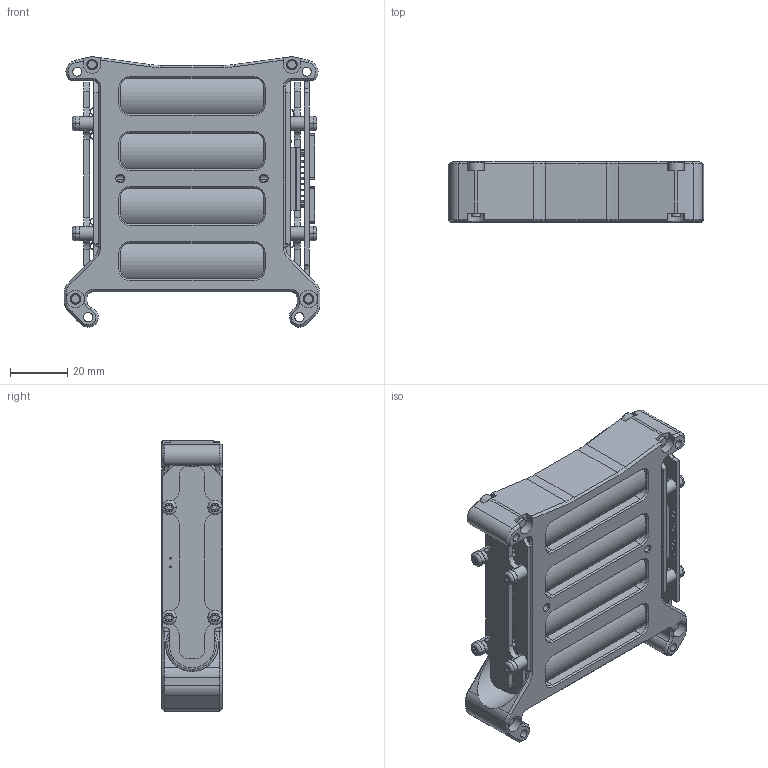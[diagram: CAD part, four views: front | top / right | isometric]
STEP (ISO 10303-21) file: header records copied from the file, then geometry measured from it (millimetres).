
FILE_DESCRIPTION((''),'2;1');
FILE_NAME('ISIS-IPBP4C-3-0-001_SW0001','2020-02-20T',('sjay'),(''),'PRO/ENGINEER BY PARAMETRIC TECHNOLOGY CORPORATION, 2015110','PRO/ENGINEER BY PARAMETRIC TECHNOLOGY CORPORATION, 2015110','');
FILE_SCHEMA(('CONFIG_CONTROL_DESIGN'));
Products named in the file (1): ISIS-IPBP4C-3-0-001_SW0001
Bounding box: 89.3 x 21 x 94.39 mm (x, y, z)
Volume: 112675.5 mm3; surface area: 46372.6 mm2
Topology: 1 solids, 2 shells, 3052 faces, 8513 edges, 5423 vertices
Faces by surface type: plane 1941, cylinder 804, cone 128, torus 118, bspline 32, sphere 29
Entity records: 105564 total; most frequent: CARTESIAN_POINT 25685, ORIENTED_EDGE 16954, DIRECTION 16386, EDGE_CURVE 8477, VECTOR 6202, LINE 6202, VERTEX_POINT 5419, AXIS2_PLACEMENT_3D 5092
